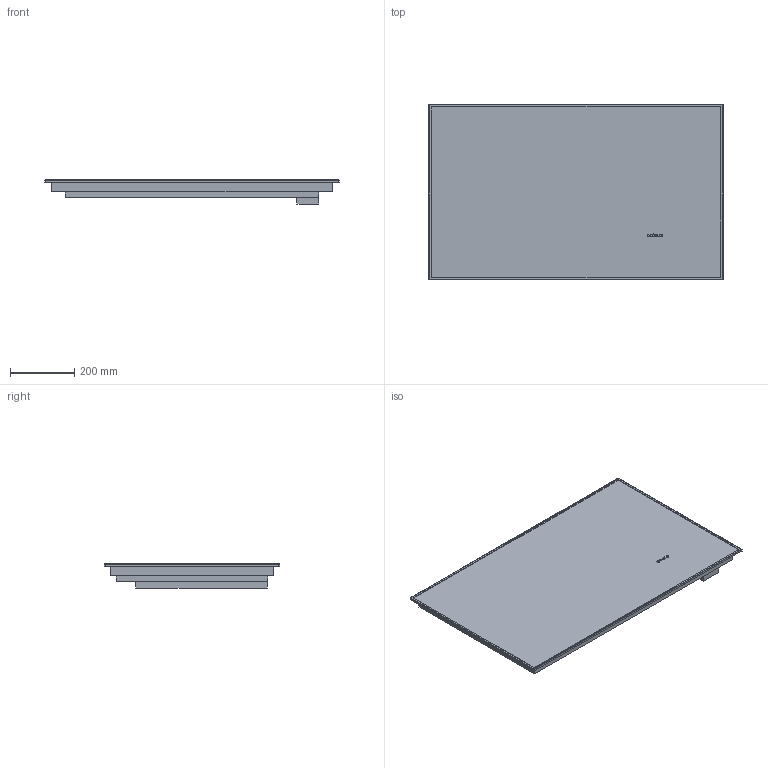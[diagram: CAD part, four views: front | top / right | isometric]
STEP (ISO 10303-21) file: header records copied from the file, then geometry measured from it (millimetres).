
FILE_DESCRIPTION ((), '1');
FILE_NAME ('P:\Miele 2011\LowPoly-modelle_2011\Herde\export\KM5860.step', '2011-11-16T14:59:29', ('Unknown'), ('nPowerSoftware.com'), 'HarmonyWare STEP v1.9.1', 'nPower Software, LLC', '');
FILE_SCHEMA (('CONFIG_CONTROL_DESIGN'));
Length unit declared in the file: millimetre
Products named in the file (11): product-name
Bounding box: 914.11 x 544 x 75.02 mm (x, y, z)
Volume: 23359071.5 mm3; surface area: 2888399.8 mm2
Topology: 11 solids, 11 shells, 142 faces, 352 edges, 228 vertices
Faces by surface type: bspline 142
Entity records: 5612 total; most frequent: CARTESIAN_POINT 2427, ORIENTED_EDGE 696, EDGE_CURVE 348, B_SPLINE_CURVE_WITH_KNOTS 322, VERTEX_POINT 228, EDGE_LOOP 148, FACE_OUTER_BOUND 142, ADVANCED_FACE 142
